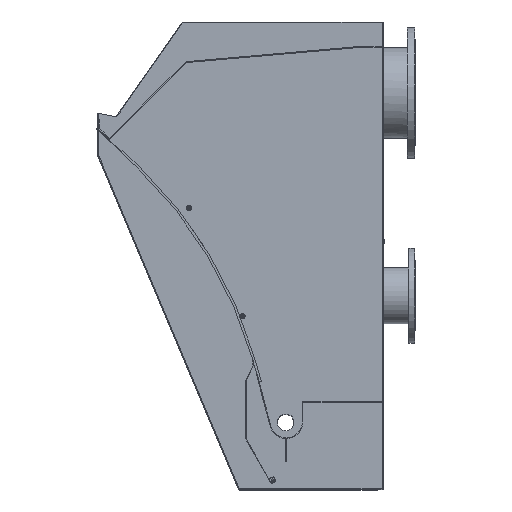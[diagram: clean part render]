
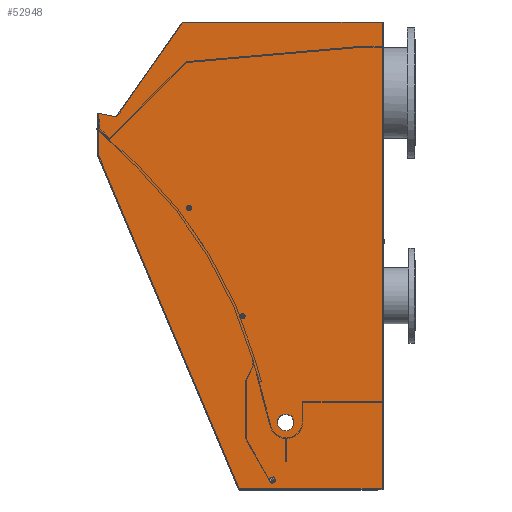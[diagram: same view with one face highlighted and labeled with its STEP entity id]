
A CAD part, top view. The second image highlights one B-rep face of the part: STEP entity #52948.
In plain terms, the highlighted planar face has unit normal (0, 0, 1).
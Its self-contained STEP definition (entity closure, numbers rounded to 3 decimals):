
#7134=LINE('',#92182,#11869);
#7136=LINE('',#92186,#11871);
#7145=LINE('',#92211,#11880);
#7147=LINE('',#92215,#11882);
#7155=LINE('',#92231,#11890);
#7167=LINE('',#92256,#11902);
#7180=LINE('',#92278,#11915);
#7191=LINE('',#92301,#11926);
#11869=VECTOR('',#64657,0.2);
#11871=VECTOR('',#64661,60.);
#11880=VECTOR('',#64686,140.3);
#11882=VECTOR('',#64690,43.);
#11890=VECTOR('',#64702,34.539);
#11902=VECTOR('',#64720,12.5);
#11915=VECTOR('',#64745,108.855);
#11926=VECTOR('',#64776,5.59);
#13713=PLANE('',#55415);
#14476=FACE_BOUND('',#20478,.T.);
#14477=FACE_BOUND('',#20479,.T.);
#14478=FACE_BOUND('',#20480,.T.);
#14479=FACE_BOUND('',#20481,.T.);
#17224=FACE_OUTER_BOUND('',#20477,.T.);
#20477=EDGE_LOOP('',(#46530,#46531,#46532,#46533,#46534,#46535,#46536,#46537));
#20478=EDGE_LOOP('',(#46538));
#20479=EDGE_LOOP('',(#46539));
#20480=EDGE_LOOP('',(#46540));
#20481=EDGE_LOOP('',(#46541));
#21050=CIRCLE('',#53695,0.8);
#21199=CIRCLE('',#55314,0.9);
#21231=CIRCLE('',#55389,2.5);
#21232=CIRCLE('',#55416,0.8);
#21726=VERTEX_POINT('',#67119);
#25733=VERTEX_POINT('',#91830);
#25860=VERTEX_POINT('',#92179);
#25861=VERTEX_POINT('',#92181);
#25862=VERTEX_POINT('',#92185);
#25864=VERTEX_POINT('',#92193);
#25870=VERTEX_POINT('',#92210);
#25871=VERTEX_POINT('',#92214);
#25877=VERTEX_POINT('',#92229);
#25886=VERTEX_POINT('',#92253);
#25887=VERTEX_POINT('',#92255);
#25893=VERTEX_POINT('',#92303);
#26660=EDGE_CURVE('',#21726,#21726,#21050,.T.);
#32634=EDGE_CURVE('',#25733,#25733,#21199,.T.);
#32794=EDGE_CURVE('',#25860,#25861,#7134,.T.);
#32796=EDGE_CURVE('',#25861,#25862,#7136,.T.);
#32799=EDGE_CURVE('',#25864,#25864,#21231,.T.);
#32807=EDGE_CURVE('',#25862,#25870,#7145,.T.);
#32809=EDGE_CURVE('',#25870,#25871,#7147,.T.);
#32817=EDGE_CURVE('',#25877,#25860,#7155,.T.);
#32829=EDGE_CURVE('',#25886,#25887,#7167,.T.);
#32842=EDGE_CURVE('',#25871,#25886,#7180,.T.);
#32853=EDGE_CURVE('',#25887,#25877,#7191,.T.);
#32854=EDGE_CURVE('',#25893,#25893,#21232,.T.);
#46530=ORIENTED_EDGE('',*,*,#32807,.F.);
#46531=ORIENTED_EDGE('',*,*,#32796,.F.);
#46532=ORIENTED_EDGE('',*,*,#32794,.F.);
#46533=ORIENTED_EDGE('',*,*,#32817,.F.);
#46534=ORIENTED_EDGE('',*,*,#32853,.F.);
#46535=ORIENTED_EDGE('',*,*,#32829,.F.);
#46536=ORIENTED_EDGE('',*,*,#32842,.F.);
#46537=ORIENTED_EDGE('',*,*,#32809,.F.);
#46538=ORIENTED_EDGE('',*,*,#32854,.T.);
#46539=ORIENTED_EDGE('',*,*,#26660,.T.);
#46540=ORIENTED_EDGE('',*,*,#32634,.T.);
#46541=ORIENTED_EDGE('',*,*,#32799,.F.);
#52948=ADVANCED_FACE('',(#17224,#14476,#14477,#14478,#14479),#13713,.T.);
#53695=AXIS2_PLACEMENT_3D('',#67120,#56937,#56938);
#55314=AXIS2_PLACEMENT_3D('',#91831,#64400,#64401);
#55389=AXIS2_PLACEMENT_3D('',#92194,#64671,#64672);
#55415=AXIS2_PLACEMENT_3D('',#92302,#64777,#64778);
#55416=AXIS2_PLACEMENT_3D('',#92304,#64779,#64780);
#56937=DIRECTION('center_axis',(0.,0.,
-1.));
#56938=DIRECTION('ref_axis',(-1.,0.,0.));
#64400=DIRECTION('center_axis',(0.,0.,
-1.));
#64401=DIRECTION('ref_axis',(1.,0.,0.));
#64657=DIRECTION('',(0.,1.,0.));
#64661=DIRECTION('',(1.,0.,0.));
#64671=DIRECTION('center_axis',(0.,0.,
1.));
#64672=DIRECTION('ref_axis',(0.,1.,0.));
#64686=DIRECTION('',(0.,-1.,0.));
#64690=DIRECTION('',(-1.,0.,0.));
#64702=DIRECTION('',(0.573,0.819,0.));
#64720=DIRECTION('',(0.,1.,0.));
#64745=DIRECTION('',(-0.389,0.921,0.));
#64776=DIRECTION('',(0.984,-0.179,0.));
#64777=DIRECTION('center_axis',(0.,0.,
1.));
#64778=DIRECTION('ref_axis',(0.,1.,0.));
#64779=DIRECTION('center_axis',(0.,0.,
-1.));
#64780=DIRECTION('ref_axis',(-1.,0.,0.));
#67119=CARTESIAN_POINT('',(-28.356,-48.6,72.7));
#67120=CARTESIAN_POINT('Origin',(-29.156,-48.6,72.7));
#91830=CARTESIAN_POINT('',(-3.256,-130.4,72.7));
#91831=CARTESIAN_POINT('Origin',(-4.156,-130.4,72.7));
#92179=CARTESIAN_POINT('',(-31.156,7.2,72.7));
#92181=CARTESIAN_POINT('',(-31.156,7.4,72.7));
#92182=CARTESIAN_POINT('',(-31.156,7.4,72.7));
#92185=CARTESIAN_POINT('',(28.844,7.4,72.7));
#92186=CARTESIAN_POINT('',(28.844,7.4,72.7));
#92193=CARTESIAN_POINT('',(-0.156,-115.5,72.7));
#92194=CARTESIAN_POINT('Origin',(-0.156,-113.,72.7));
#92210=CARTESIAN_POINT('',(28.844,-132.9,72.7));
#92211=CARTESIAN_POINT('',(28.844,7.2,72.7));
#92214=CARTESIAN_POINT('',(-14.156,-132.9,72.7));
#92215=CARTESIAN_POINT('',(28.844,-132.9,72.7));
#92229=CARTESIAN_POINT('',(-50.956,-21.1,72.7));
#92231=CARTESIAN_POINT('',(-50.956,-21.1,72.7));
#92253=CARTESIAN_POINT('',(-56.456,-32.6,72.7));
#92255=CARTESIAN_POINT('',(-56.456,-20.1,72.7));
#92256=CARTESIAN_POINT('',(-56.456,-32.6,72.7));
#92278=CARTESIAN_POINT('',(-14.156,-132.9,72.7));
#92301=CARTESIAN_POINT('',(-56.456,-20.1,72.7));
#92302=CARTESIAN_POINT('Origin',(-4.893,-58.777,72.7));
#92303=CARTESIAN_POINT('',(-12.356,-81.1,72.7));
#92304=CARTESIAN_POINT('Origin',(-13.156,-81.1,72.7));
